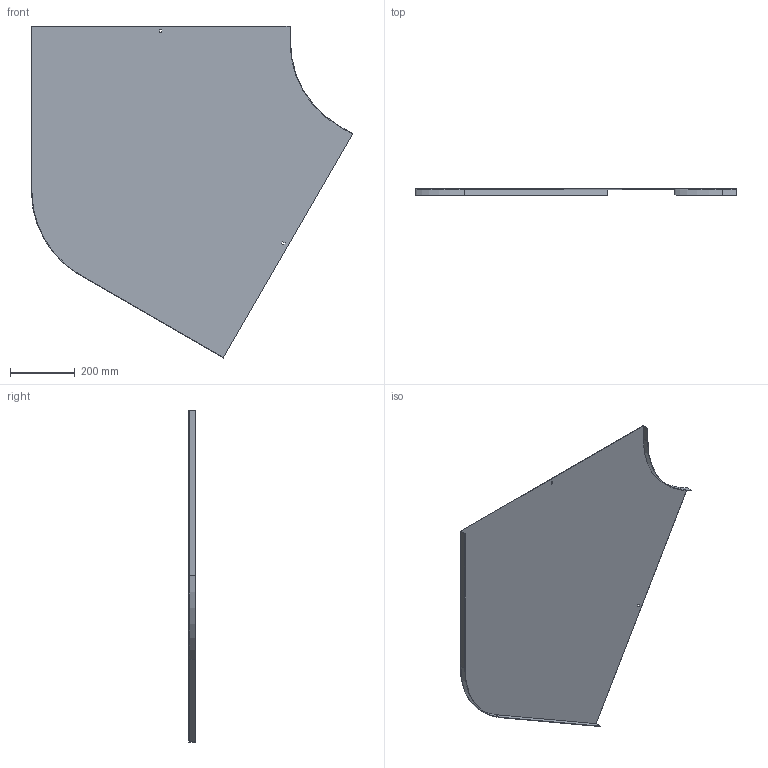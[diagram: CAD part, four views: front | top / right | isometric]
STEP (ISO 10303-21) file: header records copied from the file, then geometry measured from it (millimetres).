
FILE_DESCRIPTION (( 'STEP AP214' ), '1' );
FILE_NAME ('B2_13N3R800.step', '2025-02-21T10:53:00', ( '' ), ( '' ), 'SwSTEP 2.0', 'SolidWorks 2023', '' );
FILE_SCHEMA (( 'AUTOMOTIVE_DESIGN' ));
Length unit declared in the file: millimetre
Products named in the file (1): B2_13N3R800
Bounding box: 995.55 x 20 x 1028.93 mm (x, y, z)
Volume: 1142335.3 mm3; surface area: 1528354.9 mm2
Topology: 1 solids, 1 shells, 26 faces, 72 edges, 48 vertices
Faces by surface type: plane 22, cylinder 4
Entity records: 855 total; most frequent: CARTESIAN_POINT 147, ORIENTED_EDGE 144, DIRECTION 134, EDGE_CURVE 72, LINE 64, VECTOR 64, VERTEX_POINT 48, AXIS2_PLACEMENT_3D 35
